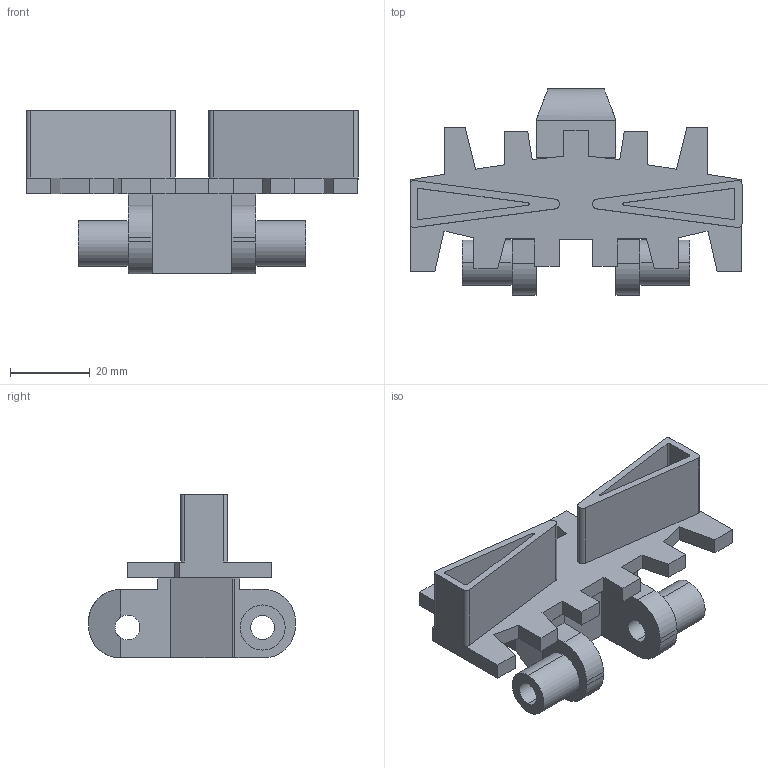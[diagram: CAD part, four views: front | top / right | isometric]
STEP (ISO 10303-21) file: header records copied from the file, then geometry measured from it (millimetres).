
FILE_DESCRIPTION (( 'STEP AP214' ), '1' );
FILE_NAME ('FMCT-5A17.STEP', '2011-04-14T11:06:53', ( '.' ), ( '' ), 'SwSTEP 2.0', 'SolidWorks 2010', '' );
FILE_SCHEMA (( 'AUTOMOTIVE_DESIGN' ));
Length unit declared in the file: millimetre
Products named in the file (1): FMCT-5A17
Bounding box: 83 x 51.7 x 41 mm (x, y, z)
Volume: 29955.7 mm3; surface area: 16598.3 mm2
Topology: 1 solids, 1 shells, 124 faces, 348 edges, 228 vertices
Faces by surface type: plane 92, cylinder 32
Entity records: 4004 total; most frequent: CARTESIAN_POINT 719, ORIENTED_EDGE 696, DIRECTION 654, EDGE_CURVE 348, VECTOR 280, LINE 280, VERTEX_POINT 228, AXIS2_PLACEMENT_3D 187
